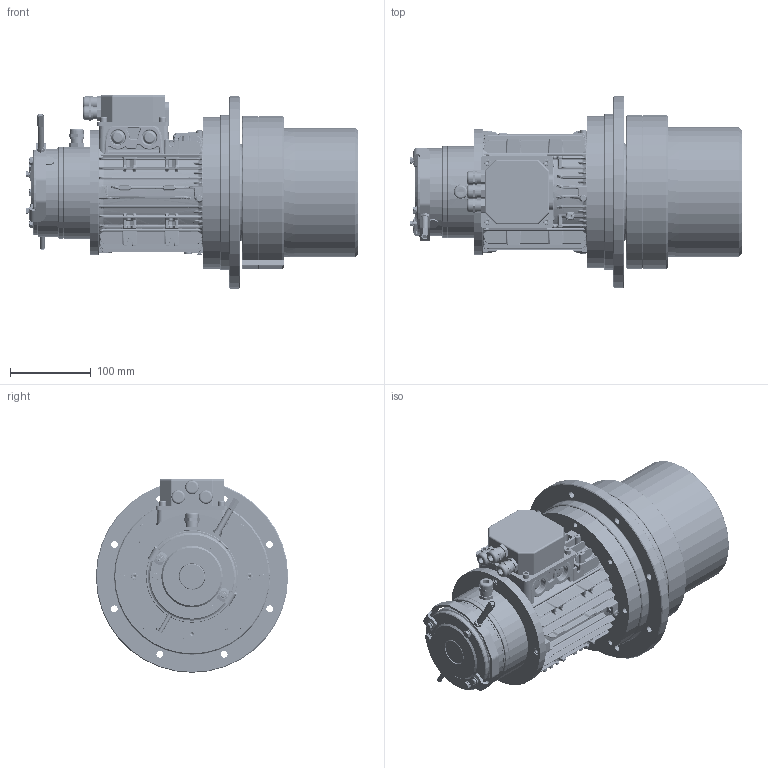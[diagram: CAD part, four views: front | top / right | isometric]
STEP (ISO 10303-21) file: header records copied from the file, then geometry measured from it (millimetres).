
FILE_DESCRIPTION(/* description */ (''),/* implementation_level */ '2;1');
FILE_NAME(/* name */ 'Z:\SITO WEB 2024\Dual Drive\MRH160\MRH160-PMAC.stp',/* time_stamp */ '2024-03-21T12:26:17+01:00',/* author */ ('cad3'),/* organization */ (''),/* preprocessor_version */ 'ST-DEVELOPER v18.1',/* originating_system */ 'Autodesk Inventor 2022',/* authorisation */ '');
FILE_SCHEMA (('AUTOMOTIVE_DESIGN { 1 0 10303 214 3 1 1 }'));
Products named in the file (1): MRH160-PMAC
Bounding box: 410.8 x 238 x 239.5 mm (x, y, z)
Volume: 3975404.9 mm3; surface area: 935738.9 mm2
Topology: 4 solids, 50 shells, 13539 faces, 34337 edges, 21261 vertices
Faces by surface type: plane 7417, cylinder 2723, bspline 2164, torus 543, cone 368, sphere 324
Full cylindrical faces by diameter (mm): 2 x7, 3 x3, 3.2 x4, 3.242 x3, 3.3 x1, 4 x6, 4.134 x3, 4.2 x1, 4.3 x6, 4.5 x2, 4.917 x2, 5 x39, 5.2 x21, 5.3 x8, 5.5 x13, 6 x9, 6.5 x4, 6.647 x17, 6.88 x3, 6.917 x3, 7 x4, 7.1 x1, 7.8 x1, 8 x20, 8.376 x16, 8.4 x15, 8.5 x26, 9 x16, 10 x10, 11 x6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
Entity records: 506676 total; most frequent: CARTESIAN_POINT 171879, ORIENTED_EDGE 68166, DIRECTION 66838, EDGE_CURVE 34083, AXIS2_PLACEMENT_3D 24568, VERTEX_POINT 21260, LINE 17702, VECTOR 17702
